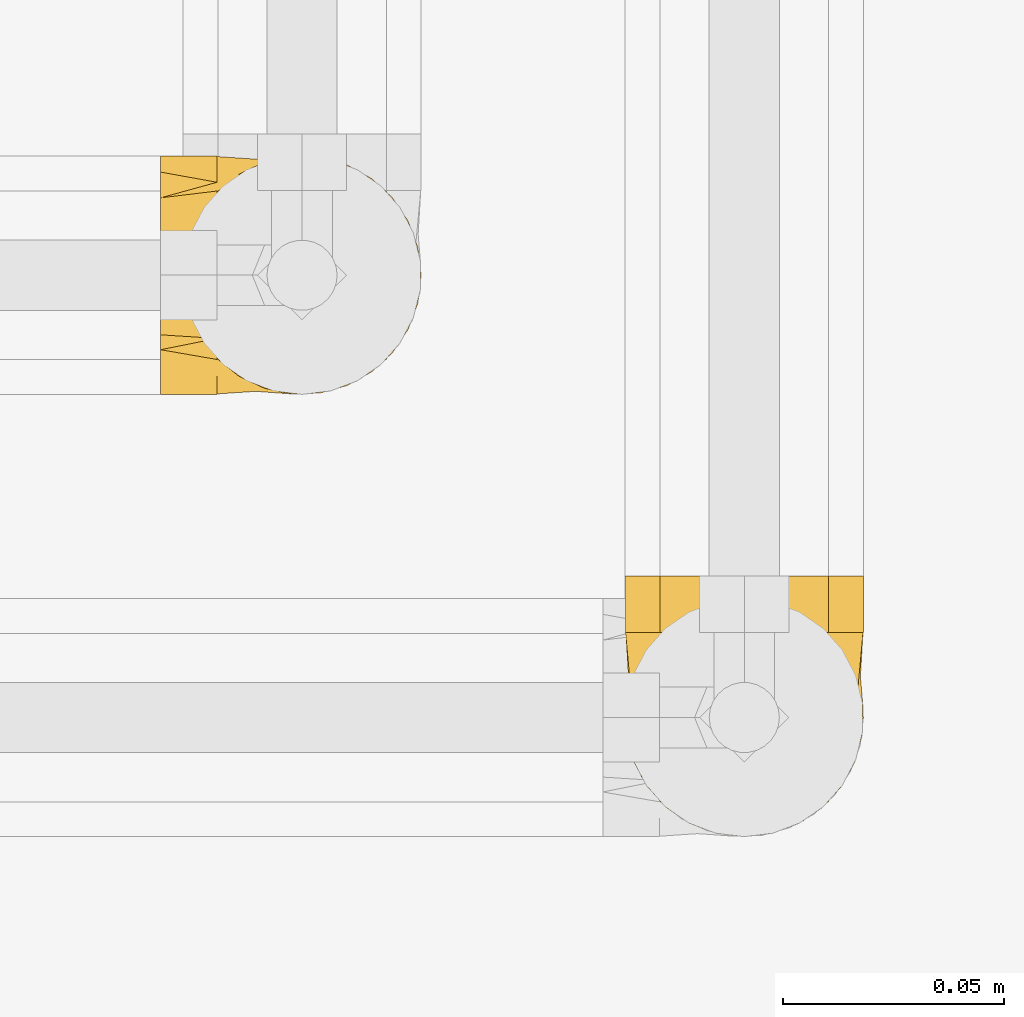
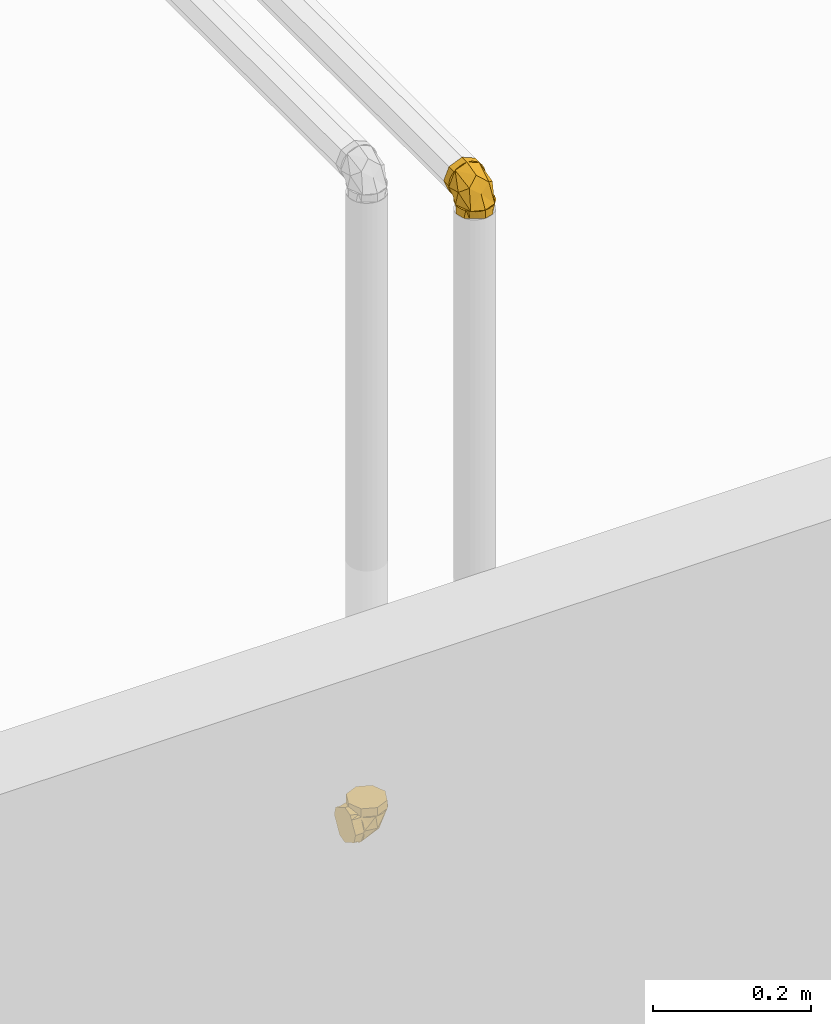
# One storey, part 291 of 652: 2 coverings.
"""IFC2X3 building model written with IfcOpenShell, lengths in millimetres."""

import ifcopenshell
import ifcopenshell.guid

model = None  # the IFC model being written
_history = None  # IfcOwnerHistory: only IFC2X3 demands one
_inside = {}  # id of a spatial element -> (the spatial element, [elements in it])
_under = {}  # id of a project, library or spatial element -> (it, [spatial elements below it])
_declared = {}  # id of a project -> (the project, [libraries it declares])
_typed = {}  # id of a type object -> (the type object, [elements of that type])
_made_of = {}  # id of a material, layer set ... -> (it, [elements and type objects made of it])


def new_model(schema):
    """Start an empty IFC model of exactly this schema.

    Asked for "IFC4X3", IfcOpenShell would pick the latest addendum, in which some entities
    have other attributes; the version numbers below select the first issue.
    IFC2X3 requires an IfcOwnerHistory on every rooted entity: one is made here for all.
    """
    global model, _history
    if schema == "IFC4X3":
        model = ifcopenshell.file(schema_version=(4, 3, 0, 0))
    else:
        model = ifcopenshell.file(schema=schema)
    _inside.clear()
    _under.clear()
    _declared.clear()
    _typed.clear()
    _made_of.clear()
    _history = None
    if model.schema == "IFC2X3":
        org = make("IfcOrganization", Name="unknown")
        user = make(
            "IfcPersonAndOrganization",
            ThePerson=make("IfcPerson", FamilyName="unknown"),
            TheOrganization=org,
        )
        app = make(
            "IfcApplication",
            ApplicationDeveloper=org,
            Version="unknown",
            ApplicationFullName="unknown",
            ApplicationIdentifier="unknown",
        )
        _history = make(
            "IfcOwnerHistory",
            OwningUser=user,
            OwningApplication=app,
            ChangeAction="ADDED",
            CreationDate=0,
        )
    return model


def make(cls, **values):
    """One entity of the class cls with the attributes given. An attribute that is None is left unset."""
    return model.create_entity(
        cls, **{name: value for name, value in values.items() if value is not None}
    )


def entity(cls, *values):
    """Any entity or typed value of the class cls, its attributes in the order of the schema. None: left unset."""
    e = model.create_entity(cls)
    for i, value in enumerate(values):
        if value is not None:
            e[i] = value
    return e


def rooted(cls, **values):
    """An entity with a GlobalId (a new one), such as an element, a storey or a relation."""
    return make(cls, GlobalId=ifcopenshell.guid.new(), OwnerHistory=_history, **values)


def si_unit(unit_type, name, prefix=None):
    """IfcSIUnit, for example si_unit("LENGTHUNIT", "METRE", prefix="MILLI")."""
    return make("IfcSIUnit", UnitType=unit_type, Prefix=prefix, Name=name)


def converted_unit(unit_type, name, factor, base, dimensions=None, offset=None):
    """IfcConversionBasedUnit, such as the inch: factor (a typed value) times the base unit."""
    return make(
        "IfcConversionBasedUnit"
        if offset is None
        else "IfcConversionBasedUnitWithOffset",
        ConversionOffset=offset,
        Dimensions=None
        if dimensions is None
        else entity("IfcDimensionalExponents", *dimensions),
        UnitType=unit_type,
        Name=name,
        ConversionFactor=make(
            "IfcMeasureWithUnit", ValueComponent=factor, UnitComponent=base
        ),
    )


def assignment(units):
    """IfcUnitAssignment: the units of a project."""
    return None if units is None else make("IfcUnitAssignment", Units=units)


def point(xyz):
    """IfcCartesianPoint."""
    return None if xyz is None else make("IfcCartesianPoint", Coordinates=xyz)


def direction(xyz):
    """IfcDirection."""
    return None if xyz is None else make("IfcDirection", DirectionRatios=xyz)


def frame(location, z_axis=None, x_axis=None):
    """IfcAxis2Placement3D, a coordinate frame: its origin and axes. An axis left out is left unset."""
    return make(
        "IfcAxis2Placement3D",
        Location=point(location),
        Axis=direction(z_axis),
        RefDirection=direction(x_axis),
    )


def origin():
    """The frame at (0, 0, 0) with its axes left unset."""
    return frame((0.0, 0.0, 0.0))


def place(relative_to, where):
    """IfcLocalPlacement: puts the frame where relative to a parent placement (None: the world)."""
    return make(
        "IfcLocalPlacement", PlacementRelTo=relative_to, RelativePlacement=where
    )


def context(
    kind, dimensions, precision=None, world=None, true_north=None, identifier=None
):
    """IfcGeometricRepresentationContext, for example the 3D "Model" context."""
    return make(
        "IfcGeometricRepresentationContext",
        ContextIdentifier=identifier,
        ContextType=kind,
        CoordinateSpaceDimension=dimensions,
        Precision=precision,
        WorldCoordinateSystem=world,
        TrueNorth=true_north,
    )


def subcontext(parent, identifier, kind, view, scale=None):
    """IfcGeometricRepresentationSubContext, for example "Body" below "Model"."""
    return make(
        "IfcGeometricRepresentationSubContext",
        ContextIdentifier=identifier,
        ContextType=kind,
        ParentContext=parent,
        TargetScale=scale,
        TargetView=view,
    )


def project(units=None, contexts=None):
    """IfcProject with its units and contexts."""
    return rooted(
        "IfcProject",
        Name="project",
        RepresentationContexts=contexts,
        UnitsInContext=assignment(units),
    )


def spatial(cls, under=None, at=None, **own):
    """A site, building, storey or space (cls), placed at a placement, below another one or the project."""
    s = rooted(cls, ObjectPlacement=at, **own)
    if under is not None:
        _under.setdefault(under.id(), (under, []))[1].append(s)
    return s


def faces_of(points, faces, orient=None, outer=None):
    """IfcFace entities. A face is a list of loops; a loop is a list of indices into points, from 0.

    orient and outer hold one flag for each loop. By default every Orientation is true, the
    first loop of a face is its IfcFaceOuterBound and the others are IfcFaceBound.
    """
    made = []
    for i, loops in enumerate(faces):
        bounds = []
        for j, loop in enumerate(loops):
            is_outer = j == 0 if outer is None else outer[i][j]
            bounds.append(
                make(
                    "IfcFaceOuterBound" if is_outer else "IfcFaceBound",
                    Bound=make("IfcPolyLoop", Polygon=[points[k] for k in loop]),
                    Orientation=True if orient is None else orient[i][j],
                )
            )
        made.append(make("IfcFace", Bounds=bounds))
    return made


def face_set(faces, orient=None, outer=None):
    """The faces of one IfcConnectedFaceSet. surface_model builds it on its shared points."""
    return ("IfcConnectedFaceSet", faces, orient, outer)


def surface_model(cls, points, shells):
    """IfcFaceBasedSurfaceModel or IfcShellBasedSurfaceModel (cls): surfaces that need not close."""
    shared = [point(p) for p in points]
    made = [make(c, CfsFaces=faces_of(shared, fs, o, b)) for c, fs, o, b in shells]
    if cls == "IfcFaceBasedSurfaceModel":
        return make(cls, FbsmFaces=made)
    return make(cls, SbsmBoundary=made)


def shape(context_of_items, identifier, shape_type, items):
    """IfcShapeRepresentation: the items that make up one representation, for example the "Body"."""
    return make(
        "IfcShapeRepresentation",
        ContextOfItems=context_of_items,
        RepresentationIdentifier=identifier,
        RepresentationType=shape_type,
        Items=items,
    )


def material(Name=None, Category=None):
    """IfcMaterial."""
    return make("IfcMaterial", Name=Name, Category=Category)


def made_of(thing, what):
    """Note that an element or type object is made of a material, layer set ...; save() writes the relation."""
    if what is not None:
        _made_of.setdefault(what.id(), (what, []))[1].append(thing)
    return thing


def type_object(cls, material=None, **own):
    """A type object (cls), such as IfcWallType, which elements share."""
    return made_of(rooted(cls, **own), material)


def element(
    cls,
    number,
    at=None,
    inside=None,
    cuts=None,
    type_object=None,
    material=None,
    context=None,
    identifier="Body",
    shape_type=None,
    held_by="IfcProductDefinitionShape",
    body=None,
    shapes=None,
    **own,
):
    """One element of the class cls, such as IfcWall. Its Tag is "e" and its number.

    at: its placement. inside: the storey or other place that contains it. cuts: it is an
    opening in that element (IfcRelVoidsElement). A single representation is given by context,
    identifier, shape_type and body (its items); several are given by shapes. held_by: the class
    of the entity that holds the representations. save() writes the other relations.
    """
    e = rooted(cls, Tag="e%d" % number, ObjectPlacement=at, **own)
    if body is not None:
        shapes = [shape(context, identifier, shape_type, body)]
    if shapes is not None:
        e.Representation = make(held_by, Representations=shapes)
    if inside is not None:
        _inside.setdefault(inside.id(), (inside, []))[1].append(e)
    if cuts is not None:
        rooted(
            "IfcRelVoidsElement", RelatingBuildingElement=cuts, RelatedOpeningElement=e
        )
    if type_object is not None:
        _typed.setdefault(type_object.id(), (type_object, []))[1].append(e)
    return made_of(e, material)


def aggregate(whole, parts):
    """IfcRelAggregates: a whole, such as a stair, and the parts it consists of."""
    return rooted("IfcRelAggregates", RelatingObject=whole, RelatedObjects=parts)


def save(model, path):
    """Write the relations noted so far, then the file.

    IfcRelAggregates (storeys below a building ...), IfcRelContainedInSpatialStructure (elements
    in a storey), IfcRelDefinesByType, IfcRelAssociatesMaterial and IfcRelDeclares: one each for
    every whole, place, type object, material and project.
    """
    for whole, parts in _under.values():
        aggregate(whole, parts)
    for where, things in _inside.values():
        rooted(
            "IfcRelContainedInSpatialStructure",
            RelatedElements=things,
            RelatingStructure=where,
        )
    for kind, things in _typed.values():
        rooted("IfcRelDefinesByType", RelatedObjects=things, RelatingType=kind)
    for what, things in _made_of.values():
        rooted("IfcRelAssociatesMaterial", RelatedObjects=things, RelatingMaterial=what)
    for by, libraries in _declared.values():
        rooted("IfcRelDeclares", RelatingContext=by, RelatedDefinitions=libraries)
    model.write(path)


model = new_model("IFC2X3")

# Units and contexts
model_context = context("Model", 3, precision=0.01, world=frame((0.0, 0.0, 308426.39999999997)), true_north=direction((6.123233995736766e-17, 1.0)))
plan_context = context("Plan", 3, precision=0.01, world=frame((0.0, 0.0, 308426.39999999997)), true_north=direction((6.123233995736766e-17, 1.0)))
body_context = subcontext(model_context, "Body", "Model", "MODEL_VIEW")
ifc_project = project(units=[si_unit("LENGTHUNIT", "METRE", prefix="MILLI"), si_unit("AREAUNIT", "SQUARE_METRE"), si_unit("VOLUMEUNIT", "CUBIC_METRE"), converted_unit("PLANEANGLEUNIT", "DEGREE", entity("IfcPlaneAngleMeasure", 0.017453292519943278), si_unit("PLANEANGLEUNIT", "RADIAN"), dimensions=[0, 0, 0, 0, 0, 0, 0])], contexts=[model_context, plan_context])

# Site, building, storey
site_placement = place(None, origin())
site = spatial("IfcSite", under=ifc_project, at=site_placement, Name="Default", CompositionType="ELEMENT")
building_placement = place(site_placement, origin())
building = spatial("IfcBuilding", under=site, at=building_placement, CompositionType="ELEMENT")
storey_placement = place(building_placement, frame((0.0, 0.0, 1730.6999999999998)))
storey = spatial("IfcBuildingStorey", under=building, at=storey_placement, Name="EG_Produktion_FFB", CompositionType="ELEMENT", Elevation=1730.6999999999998)

# Coverings
ifc_material = material(Name="Dämmung - Armaflex-Schlauch")
covering_type = type_object("IfcCoveringType", Name="Rohrdämmung außen:Armaflex-Schlauch", PredefinedType="INSULATION")
covering_1_placement = place(storey_placement, frame((28968.016249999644, 36523.503785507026, 2671.4672277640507)))
element("IfcCovering", 1, at=covering_1_placement, inside=storey, type_object=covering_type, material=ifc_material, Name="Rohrdämmung außen:Armaflex-Schlauch", ObjectType="Rohrdämmung außen:Armaflex-Schlauch", PredefinedType="INSULATION", context=body_context, shape_type="SurfaceModel", body=[
    surface_model("IfcFaceBasedSurfaceModel", [(12.766249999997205, 9.65642195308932, 47.750272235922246), (17.724287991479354, 5.678961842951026, 47.750272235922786), (23.476279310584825, 2.973980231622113, 47.750272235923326), (29.701958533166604, 1.6920879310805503, 47.75027223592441), (36.05468574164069, 1.9046594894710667, 47.75027223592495), (42.180747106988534, 3.5998591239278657, 47.75027223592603), (47.739049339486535, 6.683299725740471, 47.75027223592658), (52.420111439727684, 10.983298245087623, 47.75027223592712), (55.96329630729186, 16.26043484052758, 47.75027223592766), (58.17132276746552, 22.220883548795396, 47.75027223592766), (58.92124999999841, 28.532772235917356, 47.75027223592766), (58.17132276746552, 34.84466092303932, 47.75027223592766), (55.96329630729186, 40.80510963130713, 47.75027223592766), (52.420111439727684, 46.08224622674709, 47.75027223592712), (47.739049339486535, 50.38224474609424, 47.75027223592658), (42.180747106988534, 53.46568534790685, 47.75027223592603), (36.05468574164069, 55.16088498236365, 47.75027223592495), (29.701958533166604, 55.37345654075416, 47.75027223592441), (23.476279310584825, 54.0915642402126, 47.750272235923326), (17.724287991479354, 51.38658262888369, 47.750272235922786), (12.766249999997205, 47.40912251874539, 47.750272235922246), (12.766249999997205, 51.38658262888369, 42.79223424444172), (12.766249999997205, 54.0915642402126, 37.04024292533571), (12.766249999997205, 55.37345654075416, 30.81456370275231), (12.766250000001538, 55.16088498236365, 24.46183649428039), (12.766250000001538, 53.46568534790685, 18.33577512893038), (12.766250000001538, 50.38224474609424, 12.777472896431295), (12.766250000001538, 46.08224622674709, 8.096410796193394), (12.766250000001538, 40.80510963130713, 4.553225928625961), (12.766250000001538, 34.84466092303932, 2.3451994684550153), (12.766250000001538, 28.532772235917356, 1.5952722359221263), (12.766250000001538, 22.220883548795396, 2.3451994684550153), (12.766250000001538, 16.26043484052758, 4.553225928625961), (12.766250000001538, 10.983298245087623, 8.096410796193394), (12.766250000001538, 6.683299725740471, 12.777472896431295), (12.766250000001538, 3.5998591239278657, 18.33577512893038), (12.766250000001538, 1.9046594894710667, 24.46183649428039), (12.766249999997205, 1.6920879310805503, 30.81456370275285), (12.766249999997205, 2.973980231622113, 37.04024292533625), (12.766249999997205, 5.678961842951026, 42.79223424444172), (21.446823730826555, 2.276024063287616, 37.80740068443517), (52.73793701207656, 28.532560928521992, 24.672737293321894), (33.56468872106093, 3.599199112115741, 26.951086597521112), (41.061905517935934, 6.338566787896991, 47.750398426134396), (31.029959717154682, 28.532560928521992, 12.139781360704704), (41.84092773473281, 14.284593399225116, 17.33248765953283), (12.765958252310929, 6.338566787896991, 19.455613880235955), (41.84092773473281, 42.78052845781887, 17.33248765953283), (33.56468872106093, 53.46592274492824, 26.951086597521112), (21.446823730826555, 54.78909779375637, 37.80740068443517), (12.765958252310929, 50.72888050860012, 19.455613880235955), (41.061905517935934, 50.72888050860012, 47.750398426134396), (58.92125000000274, 28.532772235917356, 60.5165222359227), (56.94879722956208, 33.2946944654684, 60.51652223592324), (54.97634445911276, 38.05661669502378, 60.51652223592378), (53.00389168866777, 42.81853892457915, 60.51652223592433), (51.031438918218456, 47.5804611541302, 60.51652223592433), (46.26951668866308, 49.552913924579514, 60.51652223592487), (41.507594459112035, 51.5253666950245, 60.51652223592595), (36.74567222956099, 53.49781946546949, 60.51652223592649), (31.983750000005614, 55.47027223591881, 60.516522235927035), (27.22182777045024, 53.49781946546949, 60.516522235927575), (22.459905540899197, 51.5253666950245, 60.516522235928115), (17.69798331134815, 49.552913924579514, 60.516522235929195), (12.936061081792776, 47.5804611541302, 60.51652223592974), (10.963608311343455, 42.81853892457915, 60.51652223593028), (8.991155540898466, 38.05661669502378, 60.51652223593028), (7.018702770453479, 33.2946944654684, 60.51652223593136), (5.046250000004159, 28.532772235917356, 60.51652223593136), (7.018702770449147, 23.770850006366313, 60.51652223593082), (8.991155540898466, 19.008927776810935, 60.51652223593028), (10.963608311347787, 14.247005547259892, 60.51652223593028), (12.936061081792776, 9.485083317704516, 60.51652223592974), (17.69798331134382, 7.512630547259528, 60.516522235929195), (22.459905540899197, 5.540177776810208, 60.516522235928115), (27.22182777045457, 3.567725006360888, 60.516522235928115), (31.983750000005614, 1.5952722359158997, 60.516522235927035), (36.74567222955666, 3.5677250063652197, 60.51652223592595), (41.507594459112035, 5.540177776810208, 60.51652223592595), (46.26951668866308, 7.512630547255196, 60.51652223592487), (51.031438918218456, 9.485083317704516, 60.51652223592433), (53.00389168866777, 14.24700554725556, 60.51652223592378), (54.97634445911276, 19.008927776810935, 60.51652223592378), (56.94879722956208, 23.77085000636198, 60.51652223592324), (58.92125000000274, 28.532772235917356, 47.75027223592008), (56.94879722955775, 23.770850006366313, 47.75027223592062), (54.97634445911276, 19.008927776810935, 47.750272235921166), (53.003891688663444, 14.247005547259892, 47.750272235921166), (51.031438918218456, 9.485083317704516, 47.750272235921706), (45.26304951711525, 7.095738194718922, 47.750272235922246), (39.49466011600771, 4.706393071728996, 47.750272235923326), (31.983750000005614, 1.5952722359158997, 47.75027223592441), (27.22182777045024, 3.567725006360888, 47.75027223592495), (22.459905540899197, 5.540177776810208, 47.75027223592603), (17.69798331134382, 7.512630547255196, 47.75027223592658), (12.936061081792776, 9.485083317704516, 47.75027223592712), (10.546715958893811, 15.25347271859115, 47.75027223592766), (8.157370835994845, 21.021862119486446, 47.75027223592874), (5.046250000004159, 28.532772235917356, 47.75027223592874), (7.018702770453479, 33.2946944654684, 47.7502722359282), (8.991155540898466, 38.05661669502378, 47.7502722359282), (10.963608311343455, 42.81853892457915, 47.7502722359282), (12.936061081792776, 47.5804611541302, 47.75027223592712), (18.704450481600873, 49.96980627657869, 47.75027223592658), (24.472839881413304, 52.35915139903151, 47.75027223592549), (31.983750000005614, 55.47027223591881, 47.75027223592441), (36.74567222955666, 53.49781946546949, 47.75027223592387), (41.507594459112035, 51.5253666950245, 47.750272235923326), (46.26951668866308, 49.552913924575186, 47.750272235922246), (51.031438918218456, 47.5804611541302, 47.750272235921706), (53.42078403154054, 41.812071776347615, 47.750272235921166), (55.81012914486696, 36.0436823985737, 47.750272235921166), (0.0, 28.532772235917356, 1.5952722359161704), (0.0, 22.700632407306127, 4.962459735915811), (0.0, 16.868492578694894, 8.329647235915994), (0.0, 11.036352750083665, 11.696834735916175), (0.0, 5.204212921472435, 15.064022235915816), (0.0, 3.3997425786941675, 21.798397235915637), (0.0, 1.5952722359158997, 28.532772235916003), (0.0, 4.962459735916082, 34.36491206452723), (0.0, 8.329647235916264, 40.19705189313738), (0.0, 11.696834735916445, 46.02919172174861), (0.0, 15.064022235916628, 51.861331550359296), (0.0, 21.79839723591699, 53.66580189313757), (0.0, 28.532772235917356, 55.470272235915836), (0.0, 34.36491206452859, 52.10308473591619), (0.0, 40.197051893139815, 48.73589723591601), (0.0, 46.02919172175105, 45.36870973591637), (0.0, 51.86133155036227, 42.00152223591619), (0.0, 53.66580189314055, 35.26714723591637), (0.0, 55.47027223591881, 28.532772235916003), (0.0, 52.10308473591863, 22.700632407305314), (0.0, 48.73589723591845, 16.868492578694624), (0.0, 45.368709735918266, 11.036352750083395), (0.0, 42.00152223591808, 5.204212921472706), (0.0, 35.26714723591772, 3.3997425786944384), (12.766249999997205, 28.532772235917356, 1.5952722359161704), (12.766249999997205, 33.2946944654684, 3.567725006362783), (12.766249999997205, 38.05661669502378, 5.540177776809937), (12.766249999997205, 42.81853892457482, 7.512630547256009), (12.766249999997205, 47.5804611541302, 9.485083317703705), (12.766249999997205, 49.552913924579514, 14.247005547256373), (12.766249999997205, 51.5253666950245, 19.008927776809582), (12.766249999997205, 53.49781946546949, 23.770850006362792), (12.766249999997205, 55.47027223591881, 28.532772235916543), (12.766249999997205, 53.49781946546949, 33.29469446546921), (12.766249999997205, 51.5253666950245, 38.05661669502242), (12.766249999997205, 49.552913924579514, 42.818538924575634), (12.766249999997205, 47.5804611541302, 47.58046115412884), (12.766250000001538, 42.81853892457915, 49.552913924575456), (12.766249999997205, 38.05661669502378, 51.525366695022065), (12.766249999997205, 33.2946944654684, 53.49781946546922), (12.766249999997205, 28.532772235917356, 55.470272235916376), (12.766249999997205, 23.770850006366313, 53.49781946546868), (12.766249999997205, 19.008927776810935, 51.525366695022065), (12.766250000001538, 14.247005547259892, 49.552913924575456), (12.766249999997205, 9.485083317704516, 47.58046115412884), (12.766249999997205, 7.512630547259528, 42.818538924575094), (12.766249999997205, 5.540177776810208, 38.05661669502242), (12.766249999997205, 3.5677250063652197, 33.29469446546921), (12.766249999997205, 1.5952722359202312, 28.532772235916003), (12.766249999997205, 3.567725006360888, 23.770850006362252), (12.766249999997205, 5.540177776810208, 19.008927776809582), (12.766249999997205, 7.512630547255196, 14.247005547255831), (12.766249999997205, 9.485083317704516, 9.485083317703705), (12.766249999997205, 14.24700554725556, 7.512630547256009), (12.766249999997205, 19.008927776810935, 5.540177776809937), (12.766249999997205, 23.77085000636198, 3.5677250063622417)], [face_set([[[0, 1, 2, 3, 4, 5, 6, 7, 8, 9, 10, 11, 12, 13, 14, 15, 16, 17, 18, 19]], [[20, 21, 22, 23, 24, 25, 26, 27, 28, 29, 30, 31, 32, 33, 34, 35, 36, 37, 38, 39]], [[0, 40, 3]], [[10, 7, 41]], [[37, 42, 40]], [[42, 7, 43]], [[37, 40, 0]], [[3, 40, 42]], [[44, 41, 45]], [[7, 45, 41]], [[33, 30, 44]], [[44, 45, 33]], [[42, 33, 45]], [[42, 37, 46]], [[7, 42, 45]], [[43, 3, 42]], [[46, 33, 42]], [[13, 10, 41]], [[27, 47, 44]], [[44, 30, 27]], [[48, 47, 27]], [[49, 48, 23]], [[48, 50, 23]], [[44, 47, 41]], [[20, 49, 23]], [[47, 48, 13]], [[17, 49, 20]], [[41, 47, 13]], [[48, 17, 51]], [[48, 27, 50]], [[17, 48, 49]], [[51, 13, 48]]]), face_set([[[52, 53, 54, 55, 56, 57, 58, 59, 60, 61, 62, 63, 64, 65, 66, 67, 68, 69, 70, 71, 72, 73, 74, 75, 76, 77, 78, 79, 80, 81, 82, 83]], [[84, 85, 86, 87, 88, 89, 90, 91, 92, 93, 94, 95, 96, 97, 98, 99, 100, 101, 102, 103, 104, 105, 106, 107, 108, 109, 110, 111]], [[111, 110, 109, 56, 55, 54, 53, 52, 84]], [[56, 109, 108, 107, 106, 105, 60, 59, 58, 57]], [[104, 103, 102, 64, 63, 62, 61, 60, 105]], [[64, 102, 101, 100, 99, 98, 68, 67, 66, 65]], [[97, 96, 95, 72, 71, 70, 69, 68, 98]], [[72, 95, 94, 93, 92, 91, 76, 75, 74, 73]], [[90, 89, 88, 80, 79, 78, 77, 76, 91]], [[80, 88, 87, 86, 85, 84, 52, 83, 82, 81]]]), face_set([[[112, 113, 114, 115, 116, 117, 118, 119, 120, 121, 122, 123, 124, 125, 126, 127, 128, 129, 130, 131, 132, 133, 134, 135]], [[136, 137, 138, 139, 140, 141, 142, 143, 144, 145, 146, 147, 148, 149, 150, 151, 152, 153, 154, 155, 156, 157, 158, 159, 160, 161, 162, 163, 164, 165, 166, 167]], [[155, 121, 156]], [[118, 159, 119]], [[159, 158, 119]], [[123, 154, 153]], [[153, 152, 124]], [[121, 155, 122]], [[120, 158, 157]], [[118, 160, 159]], [[158, 120, 119]], [[124, 123, 153]], [[157, 156, 121]], [[155, 154, 122]], [[123, 122, 154]], [[120, 157, 121]], [[163, 115, 164]], [[112, 167, 113]], [[167, 166, 113]], [[117, 162, 161]], [[161, 160, 118]], [[115, 163, 116]], [[114, 166, 165]], [[112, 136, 167]], [[166, 114, 113]], [[118, 117, 161]], [[165, 164, 115]], [[163, 162, 116]], [[117, 116, 162]], [[114, 165, 115]], [[139, 133, 140]], [[130, 143, 131]], [[143, 142, 131]], [[135, 138, 137]], [[137, 136, 112]], [[133, 139, 134]], [[132, 142, 141]], [[130, 144, 143]], [[142, 132, 131]], [[112, 135, 137]], [[141, 140, 133]], [[139, 138, 134]], [[135, 134, 138]], [[132, 141, 133]], [[147, 127, 148]], [[124, 151, 125]], [[151, 150, 125]], [[129, 146, 145]], [[145, 144, 130]], [[127, 147, 128]], [[126, 150, 149]], [[124, 152, 151]], [[150, 126, 125]], [[130, 129, 145]], [[149, 148, 127]], [[147, 146, 128]], [[129, 128, 146]], [[126, 149, 127]]])]),
])
covering_2_placement = place(storey_placement, frame((29071.46722776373, 36423.50378550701, 3668.016249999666)))
element("IfcCovering", 2, at=covering_2_placement, inside=storey, type_object=covering_type, material=ifc_material, Name="Rohrdämmung außen:Armaflex-Schlauch", ObjectType="Rohrdämmung außen:Armaflex-Schlauch", PredefinedType="INSULATION", context=body_context, shape_type="SurfaceModel", body=[
    surface_model("IfcFaceBasedSurfaceModel", [(9.65642195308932, 47.75027223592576, 12.766249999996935), (51.38658262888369, 47.75027223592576, 17.724287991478), (54.0915642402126, 47.75027223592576, 23.47627931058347), (55.37345654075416, 47.75027223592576, 29.70195853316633), (55.16088498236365, 47.7502722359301, 36.05468574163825), (53.46568534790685, 47.7502722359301, 42.180747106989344), (50.38224474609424, 47.7502722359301, 47.739049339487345), (46.08224622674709, 47.7502722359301, 52.42011143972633), (40.80510963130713, 47.7502722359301, 55.96329630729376), (34.84466092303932, 47.7502722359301, 58.17132276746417), (28.532772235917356, 47.7502722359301, 58.92124999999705), (22.220883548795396, 47.7502722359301, 58.17132276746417), (16.26043484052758, 47.7502722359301, 55.96329630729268), (10.983298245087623, 47.7502722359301, 52.42011143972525), (6.683299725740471, 47.7502722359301, 47.739049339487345), (3.5998591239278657, 47.7502722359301, 42.180747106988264), (1.9046594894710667, 47.7502722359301, 36.05468574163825), (1.6920879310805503, 47.75027223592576, 29.70195853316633), (2.973980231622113, 47.75027223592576, 23.47627931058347), (5.678961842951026, 47.75027223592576, 17.72428799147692), (47.40912251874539, 47.75027223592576, 12.766249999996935), (51.38658262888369, 42.79223424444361, 12.766249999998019), (54.0915642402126, 37.04024292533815, 12.766249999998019), (55.37345654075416, 30.81456370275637, 12.7662499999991), (55.16088498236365, 24.461836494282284, 12.766250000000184), (53.46568534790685, 18.33577512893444, 12.766250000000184), (50.38224474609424, 12.77747289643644, 12.766250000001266), (46.08224622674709, 8.09641079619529, 12.766250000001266), (40.80510963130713, 4.553225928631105, 12.76625000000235), (34.84466092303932, 2.3451994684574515, 12.76625000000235), (28.532772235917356, 1.5952722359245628, 12.76625000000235), (22.220883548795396, 2.3451994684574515, 12.76625000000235), (16.26043484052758, 4.553225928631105, 12.76625000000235), (10.983298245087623, 8.09641079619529, 12.766250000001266), (6.683299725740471, 12.77747289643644, 12.766250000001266), (3.5998591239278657, 18.33577512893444, 12.766250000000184), (1.9046594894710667, 24.461836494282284, 12.766250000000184), (1.6920879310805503, 30.81456370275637, 12.7662499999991), (2.973980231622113, 37.04024292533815, 12.766249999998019), (5.678961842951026, 42.79223424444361, 12.766249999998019), (2.2767480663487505, 37.80786610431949, 21.447095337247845), (28.533284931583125, 24.673784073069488, 52.73762725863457), (6.336965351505, 47.74911976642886, 41.06101440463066), (3.5999231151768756, 26.950389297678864, 33.5655416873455), (14.285317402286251, 17.332371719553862, 41.84178070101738), (28.533284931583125, 12.139665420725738, 31.030231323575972), (6.336965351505, 19.455497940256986, 12.766229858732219), (42.781252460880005, 17.332371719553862, 41.84178070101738), (53.46664674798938, 26.950389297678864, 33.5655416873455), (54.7898217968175, 37.80786610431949, 21.447095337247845), (50.72727907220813, 19.455497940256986, 12.766229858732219), (50.72727907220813, 47.74911976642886, 41.06101440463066), (28.532772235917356, 60.51652223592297, 58.92125000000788), (33.2946944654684, 60.51652223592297, 56.94879722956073), (38.05661669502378, 60.516522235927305, 54.97634445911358), (42.81853892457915, 60.516522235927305, 53.0038916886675), (47.5804611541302, 60.51652223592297, 51.03143891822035), (49.552913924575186, 60.516522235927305, 46.26951668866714), (51.5253666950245, 60.516522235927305, 41.50759445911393), (53.49781946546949, 60.516522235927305, 36.74567222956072), (55.47027223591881, 60.516522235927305, 31.98375000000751), (53.497819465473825, 60.516522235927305, 27.2218277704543), (51.5253666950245, 60.516522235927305, 22.45990554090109), (49.552913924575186, 60.51652223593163, 17.69798331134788), (47.5804611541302, 60.51652223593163, 12.936061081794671), (42.81853892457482, 60.51652223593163, 10.963608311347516), (38.05661669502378, 60.51652223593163, 8.991155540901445), (33.2946944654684, 60.51652223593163, 7.018702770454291), (28.532772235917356, 60.51652223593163, 5.046250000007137), (23.77085000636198, 60.516522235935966, 7.018702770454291), (19.008927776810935, 60.51652223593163, 8.991155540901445), (14.247005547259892, 60.516522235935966, 10.9636083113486), (9.485083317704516, 60.51652223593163, 12.936061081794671), (7.512630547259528, 60.51652223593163, 17.69798331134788), (5.540177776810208, 60.516522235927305, 22.45990554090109), (3.567725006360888, 60.516522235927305, 27.2218277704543), (1.5952722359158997, 60.516522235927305, 31.98375000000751), (3.5677250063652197, 60.516522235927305, 36.74567222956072), (5.540177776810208, 60.516522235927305, 41.50759445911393), (7.512630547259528, 60.516522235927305, 46.26951668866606), (9.485083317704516, 60.51652223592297, 51.03143891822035), (14.247005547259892, 60.516522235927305, 53.0038916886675), (19.008927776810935, 60.516522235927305, 54.97634445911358), (23.77085000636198, 60.51652223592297, 56.94879722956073), (28.532772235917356, 47.750272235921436, 58.92125000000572), (23.770850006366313, 47.750272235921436, 56.94879722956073), (19.008927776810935, 47.750272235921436, 54.97634445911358), (14.24700554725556, 47.750272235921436, 53.00389168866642), (9.485083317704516, 47.750272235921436, 51.031438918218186), (7.095738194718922, 47.750272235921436, 45.26304951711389), (4.706393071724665, 47.75027223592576, 39.494660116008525), (1.5952722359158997, 47.75027223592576, 31.983750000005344), (3.567725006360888, 47.75027223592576, 27.221827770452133), (5.540177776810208, 47.75027223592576, 22.459905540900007), (7.512630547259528, 47.75027223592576, 17.697983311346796), (9.485083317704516, 47.7502722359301, 12.936061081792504), (15.253472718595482, 47.75027223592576, 10.546715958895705), (21.021862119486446, 47.7502722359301, 8.157370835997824), (28.532772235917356, 47.7502722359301, 5.046250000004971), (33.2946944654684, 47.7502722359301, 7.018702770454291), (38.05661669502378, 47.7502722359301, 8.991155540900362), (42.81853892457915, 47.7502722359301, 10.963608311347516), (47.5804611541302, 47.7502722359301, 12.936061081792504), (49.96980627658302, 47.75027223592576, 18.704450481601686), (52.359151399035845, 47.7502722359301, 24.472839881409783), (55.47027223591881, 47.75027223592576, 31.983750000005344), (53.497819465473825, 47.75027223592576, 36.74567222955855), (51.5253666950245, 47.75027223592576, 41.507594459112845), (49.552913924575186, 47.7502722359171, 46.26951668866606), (47.5804611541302, 47.750272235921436, 51.031438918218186), (41.81207177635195, 47.75027223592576, 53.42078403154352), (36.0436823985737, 47.75027223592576, 55.81012914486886), (28.532772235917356, 1.5952722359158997, 0.0), (22.700632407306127, 4.962459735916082, 0.0), (16.868492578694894, 8.329647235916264, 0.0), (11.036352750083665, 11.696834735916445, 0.0), (5.204212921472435, 15.064022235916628, 0.0), (3.3997425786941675, 21.79839723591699, 0.0), (1.5952722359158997, 28.532772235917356, 0.0), (4.962459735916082, 34.36491206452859, 0.0), (8.329647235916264, 40.197051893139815, 0.0), (11.696834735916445, 46.02919172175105, 0.0), (15.064022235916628, 51.86133155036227, 0.0), (21.79839723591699, 53.66580189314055, 0.0), (28.532772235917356, 55.47027223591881, 0.0), (34.36491206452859, 52.10308473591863, 0.0), (40.197051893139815, 48.73589723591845, 0.0), (46.02919172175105, 45.368709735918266, 0.0), (51.86133155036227, 42.00152223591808, 0.0), (53.66580189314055, 35.26714723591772, 0.0), (55.47027223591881, 28.532772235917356, 0.0), (52.10308473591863, 22.700632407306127, 0.0), (48.73589723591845, 16.868492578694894, 0.0), (45.368709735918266, 11.036352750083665, 0.0), (42.00152223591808, 5.204212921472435, 0.0), (35.26714723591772, 3.3997425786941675, 0.0), (28.532772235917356, 1.5952722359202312, 12.7662499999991), (33.2946944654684, 3.567725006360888, 12.7662499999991), (38.05661669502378, 5.540177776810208, 12.7662499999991), (42.81853892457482, 7.512630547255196, 12.766249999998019), (47.5804611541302, 9.485083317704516, 12.7662499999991), (49.552913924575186, 14.247005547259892, 12.7662499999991), (51.5253666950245, 19.008927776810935, 12.7662499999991), (53.49781946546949, 23.77085000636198, 12.7662499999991), (55.47027223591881, 28.532772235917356, 12.7662499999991), (53.49781946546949, 33.2946944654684, 12.7662499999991), (51.5253666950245, 38.05661669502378, 12.7662499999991), (49.552913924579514, 42.81853892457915, 12.7662499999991), (47.5804611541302, 47.5804611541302, 12.7662499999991), (42.81853892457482, 49.552913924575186, 12.7662499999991), (38.05661669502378, 51.5253666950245, 12.7662499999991), (33.2946944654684, 53.49781946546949, 12.7662499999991), (28.532772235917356, 55.47027223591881, 12.7662499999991), (23.77085000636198, 53.497819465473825, 12.7662499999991), (19.008927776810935, 51.5253666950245, 12.7662499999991), (14.247005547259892, 49.552913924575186, 12.7662499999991), (9.485083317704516, 47.5804611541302, 12.7662499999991), (7.512630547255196, 42.81853892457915, 12.7662499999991), (5.540177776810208, 38.05661669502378, 12.7662499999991), (3.5677250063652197, 33.29469446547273, 12.7662499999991), (1.5952722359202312, 28.532772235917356, 12.7662499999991), (3.567725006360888, 23.770850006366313, 12.7662499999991), (5.540177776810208, 19.008927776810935, 12.7662499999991), (7.512630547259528, 14.24700554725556, 12.766249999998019), (9.485083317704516, 9.485083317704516, 12.7662499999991), (14.247005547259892, 7.512630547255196, 12.7662499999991), (19.008927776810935, 5.540177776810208, 12.7662499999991), (23.77085000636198, 3.567725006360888, 12.766249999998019)], [face_set([[[0, 1, 2, 3, 4, 5, 6, 7, 8, 9, 10, 11, 12, 13, 14, 15, 16, 17, 18, 19]], [[20, 21, 22, 23, 24, 25, 26, 27, 28, 29, 30, 31, 32, 33, 34, 35, 36, 37, 38, 39]], [[0, 40, 17]], [[10, 13, 41]], [[42, 17, 43]], [[40, 43, 17]], [[37, 40, 0]], [[13, 43, 44]], [[45, 41, 44]], [[13, 44, 41]], [[33, 30, 45]], [[45, 44, 33]], [[43, 33, 44]], [[43, 37, 46]], [[43, 13, 42]], [[37, 43, 40]], [[46, 33, 43]], [[7, 10, 41]], [[27, 47, 45]], [[45, 30, 27]], [[48, 47, 27]], [[49, 48, 23]], [[48, 50, 23]], [[45, 47, 41]], [[20, 49, 23]], [[47, 48, 7]], [[3, 49, 20]], [[41, 47, 7]], [[48, 3, 51]], [[48, 27, 50]], [[3, 48, 49]], [[51, 7, 48]]]), face_set([[[52, 53, 54, 55, 56, 57, 58, 59, 60, 61, 62, 63, 64, 65, 66, 67, 68, 69, 70, 71, 72, 73, 74, 75, 76, 77, 78, 79, 80, 81, 82, 83]], [[84, 85, 86, 87, 88, 89, 90, 91, 92, 93, 94, 95, 96, 97, 98, 99, 100, 101, 102, 103, 104, 105, 106, 107, 108, 109, 110, 111]], [[111, 110, 109, 56, 55, 54, 53, 52, 84]], [[56, 109, 108, 107, 106, 105, 60, 59, 58, 57]], [[104, 103, 102, 64, 63, 62, 61, 60, 105]], [[64, 102, 101, 100, 99, 98, 68, 67, 66, 65]], [[97, 96, 95, 72, 71, 70, 69, 68, 98]], [[72, 95, 94, 93, 92, 91, 76, 75, 74, 73]], [[90, 89, 88, 80, 79, 78, 77, 76, 91]], [[80, 88, 87, 86, 85, 84, 52, 83, 82, 81]]]), face_set([[[112, 113, 114, 115, 116, 117, 118, 119, 120, 121, 122, 123, 124, 125, 126, 127, 128, 129, 130, 131, 132, 133, 134, 135]], [[136, 137, 138, 139, 140, 141, 142, 143, 144, 145, 146, 147, 148, 149, 150, 151, 152, 153, 154, 155, 156, 157, 158, 159, 160, 161, 162, 163, 164, 165, 166, 167]], [[155, 121, 156]], [[118, 159, 119]], [[159, 158, 119]], [[123, 154, 153]], [[153, 152, 124]], [[121, 155, 122]], [[120, 158, 157]], [[118, 160, 159]], [[158, 120, 119]], [[124, 123, 153]], [[157, 156, 121]], [[155, 154, 122]], [[123, 122, 154]], [[120, 157, 121]], [[163, 115, 164]], [[112, 167, 113]], [[167, 166, 113]], [[117, 162, 161]], [[161, 160, 118]], [[115, 163, 116]], [[114, 166, 165]], [[112, 136, 167]], [[166, 114, 113]], [[118, 117, 161]], [[165, 164, 115]], [[163, 162, 116]], [[117, 116, 162]], [[114, 165, 115]], [[139, 133, 140]], [[130, 143, 131]], [[143, 142, 131]], [[135, 138, 137]], [[137, 136, 112]], [[133, 139, 134]], [[132, 142, 141]], [[130, 144, 143]], [[142, 132, 131]], [[112, 135, 137]], [[141, 140, 133]], [[139, 138, 134]], [[135, 134, 138]], [[132, 141, 133]], [[147, 127, 148]], [[124, 151, 125]], [[151, 150, 125]], [[129, 146, 145]], [[145, 144, 130]], [[127, 147, 128]], [[126, 150, 149]], [[124, 152, 151]], [[150, 126, 125]], [[130, 129, 145]], [[149, 148, 127]], [[147, 146, 128]], [[129, 128, 146]], [[126, 149, 127]]])]),
])

save(model, "model.ifc")
